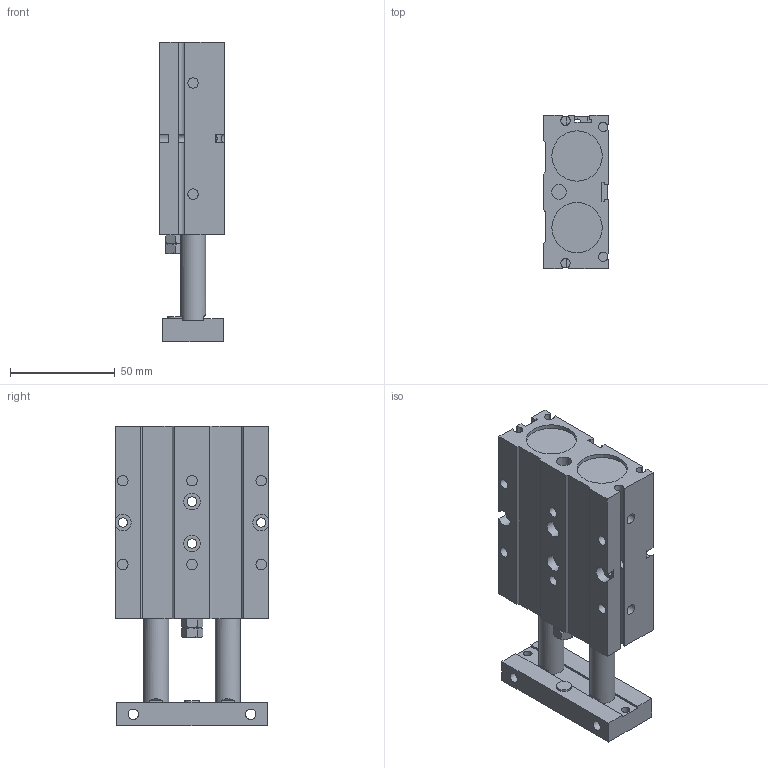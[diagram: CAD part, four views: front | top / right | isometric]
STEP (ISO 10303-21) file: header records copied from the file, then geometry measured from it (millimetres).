
FILE_DESCRIPTION((''),'2;1');
FILE_NAME('I:\3D電子目錄\氣缸\TD\TD25\TD25\TD25x30.stp','2007-08-06T09:53:31',('Administrator'),(''),'Autodesk Inventor 2008','Autodesk Inventor 2008','');
FILE_SCHEMA(('AUTOMOTIVE_DESIGN { 1 0 10303 214 1 1 1 1 }'));
Length unit declared in the file: millimetre
Products named in the file (1): TD25X30
Bounding box: 31 x 73 x 143 mm (x, y, z)
Volume: 216900.4 mm3; surface area: 43549.5 mm2
Topology: 1 solids, 3 shells, 197 faces, 494 edges, 324 vertices
Faces by surface type: plane 132, cylinder 52, cone 7, bspline 4, torus 2
Full cylindrical faces by diameter (mm): 4 x2, 4.5 x4, 5 x10, 7 x2, 8 x4, 10 x2, 11 x2, 12 x4, 24 x4
Entity records: 6021 total; most frequent: CARTESIAN_POINT 1449, DIRECTION 915, ORIENTED_EDGE 878, EDGE_CURVE 439, VERTEX_POINT 314, AXIS2_PLACEMENT_3D 312, VECTOR 291, LINE 291
